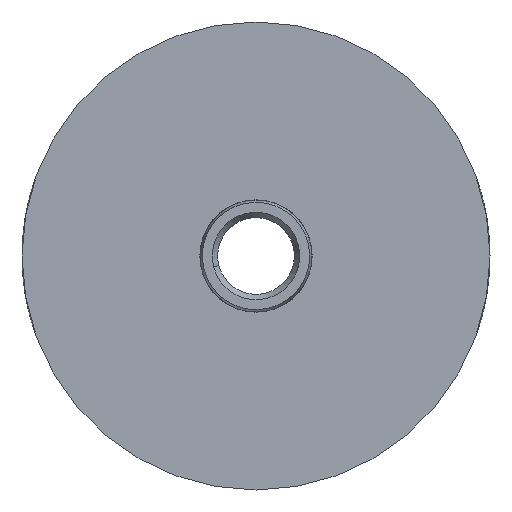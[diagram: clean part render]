
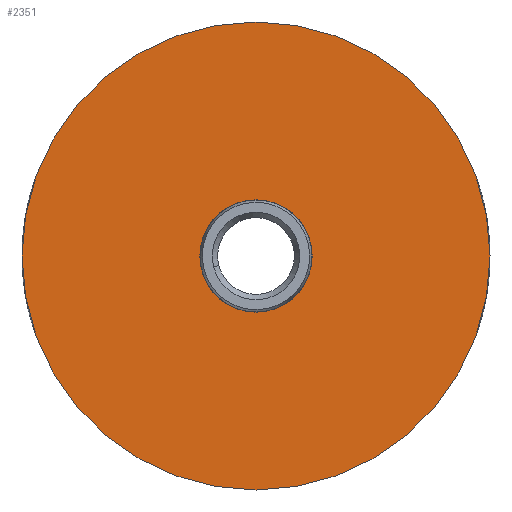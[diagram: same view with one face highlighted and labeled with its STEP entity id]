
A CAD part, front view. The second image highlights one B-rep face of the part: STEP entity #2351.
In plain terms, the highlighted planar face has unit normal (0, -1, 0).
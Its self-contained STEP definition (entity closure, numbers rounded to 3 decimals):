
#29 = ORIENTED_EDGE ( 'NONE', *, *, #1189, .F. ) ;
#32 = VERTEX_POINT ( 'NONE', #1874 ) ;
#117 = CARTESIAN_POINT ( 'NONE',  ( 0., 0., 25. ) ) ;
#154 = AXIS2_PLACEMENT_3D ( 'NONE', #636, #467, #1763 ) ;
#215 = EDGE_CURVE ( 'NONE', #32, #657, #1974, .T. ) ;
#288 = DIRECTION ( 'NONE',  ( 0., 0., 1. ) ) ;
#423 = CIRCLE ( 'NONE', #1601, 6. ) ;
#467 = DIRECTION ( 'NONE',  ( 0., 1., 0. ) ) ;
#476 = CARTESIAN_POINT ( 'NONE',  ( 0., 0., 0. ) ) ;
#542 = CARTESIAN_POINT ( 'NONE',  ( 0., 0., 0. ) ) ;
#608 = CIRCLE ( 'NONE', #788, 25. ) ;
#623 = ORIENTED_EDGE ( 'NONE', *, *, #215, .T. ) ;
#636 = CARTESIAN_POINT ( 'NONE',  ( 6., 0., 0. ) ) ;
#656 = DIRECTION ( 'NONE',  ( 0., 1., 0. ) ) ;
#657 = VERTEX_POINT ( 'NONE', #834 ) ;
#747 = ORIENTED_EDGE ( 'NONE', *, *, #2217, .F. ) ;
#788 = AXIS2_PLACEMENT_3D ( 'NONE', #938, #2262, #1118 ) ;
#834 = CARTESIAN_POINT ( 'NONE',  ( 0., 0., -6. ) ) ;
#871 = VERTEX_POINT ( 'NONE', #1310 ) ;
#938 = CARTESIAN_POINT ( 'NONE',  ( 0., 0., 0. ) ) ;
#1042 = CIRCLE ( 'NONE', #1596, 25. ) ;
#1118 = DIRECTION ( 'NONE',  ( 0., 0., 1. ) ) ;
#1189 = EDGE_CURVE ( 'NONE', #871, #2395, #1042, .T. ) ;
#1310 = CARTESIAN_POINT ( 'NONE',  ( 0., 0., -25. ) ) ;
#1373 = ORIENTED_EDGE ( 'NONE', *, *, #2008, .T. ) ;
#1396 = DIRECTION ( 'NONE',  ( 0., 1., 0. ) ) ;
#1435 = CARTESIAN_POINT ( 'NONE',  ( 0., 0., 0. ) ) ;
#1458 = DIRECTION ( 'NONE',  ( 0., 0., 1. ) ) ;
#1538 = DIRECTION ( 'NONE',  ( 0., 1., 0. ) ) ;
#1577 = PLANE ( 'NONE',  #154 ) ;
#1596 = AXIS2_PLACEMENT_3D ( 'NONE', #1435, #656, #288 ) ;
#1601 = AXIS2_PLACEMENT_3D ( 'NONE', #476, #1396, #1770 ) ;
#1726 = EDGE_LOOP ( 'NONE', ( #623, #1373 ) ) ;
#1763 = DIRECTION ( 'NONE',  ( 0., 0., 1. ) ) ;
#1770 = DIRECTION ( 'NONE',  ( 0., 0., 1. ) ) ;
#1810 = FACE_BOUND ( 'NONE', #1726, .T. ) ;
#1874 = CARTESIAN_POINT ( 'NONE',  ( 0., 0., 6. ) ) ;
#1970 = AXIS2_PLACEMENT_3D ( 'NONE', #542, #1538, #1458 ) ;
#1974 = CIRCLE ( 'NONE', #1970, 6. ) ;
#2008 = EDGE_CURVE ( 'NONE', #657, #32, #423, .T. ) ;
#2107 = EDGE_LOOP ( 'NONE', ( #747, #29 ) ) ;
#2217 = EDGE_CURVE ( 'NONE', #2395, #871, #608, .T. ) ;
#2254 = FACE_OUTER_BOUND ( 'NONE', #2107, .T. ) ;
#2262 = DIRECTION ( 'NONE',  ( 0., 1., 0. ) ) ;
#2351 = ADVANCED_FACE ( 'NONE', ( #2254, #1810 ), #1577, .F. ) ;
#2395 = VERTEX_POINT ( 'NONE', #117 ) ;
